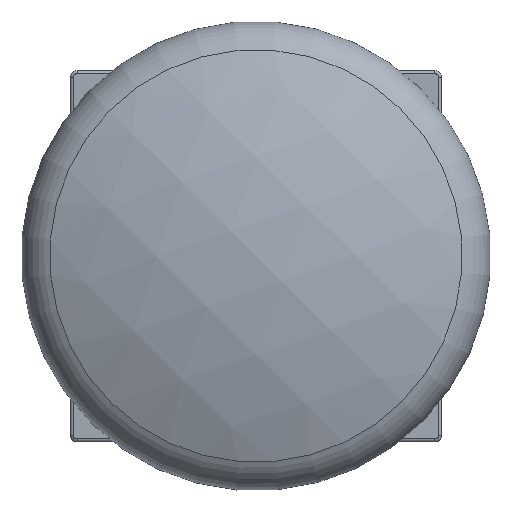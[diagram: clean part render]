
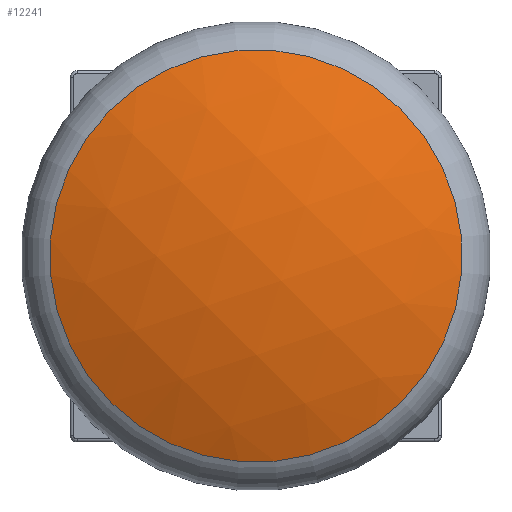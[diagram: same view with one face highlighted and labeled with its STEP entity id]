
A CAD part, top view. The second image highlights one B-rep face of the part: STEP entity #12241.
In plain terms, the highlighted spherical face has radius 615.278 mm.
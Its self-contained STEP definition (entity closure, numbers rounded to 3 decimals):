
#14=SPHERICAL_SURFACE('',#12838,615.278);
#2574=FACE_OUTER_BOUND('',#3309,.T.);
#3309=EDGE_LOOP('',(#10479));
#3888=CIRCLE('',#12837,241.596);
#5751=VERTEX_POINT('',#27156);
#7377=EDGE_CURVE('',#5751,#5751,#3888,.T.);
#10479=ORIENTED_EDGE('',*,*,#7377,.T.);
#12241=ADVANCED_FACE('',(#2574),#14,.T.);
#12837=AXIS2_PLACEMENT_3D('',#27157,#14401,#14402);
#12838=AXIS2_PLACEMENT_3D('',#27158,#14403,#14404);
#14401=DIRECTION('center_axis',(0.,0.,
1.));
#14402=DIRECTION('ref_axis',(-0.711,0.703,0.));
#14403=DIRECTION('center_axis',(-0.703,-0.711,0.));
#14404=DIRECTION('ref_axis',(0.711,-0.703,0.));
#27156=CARTESIAN_POINT('',(-171.721,169.943,253.283));
#27157=CARTESIAN_POINT('Origin',(0.,0.,
253.283));
#27158=CARTESIAN_POINT('Origin',(0.,0.,
-312.578));
